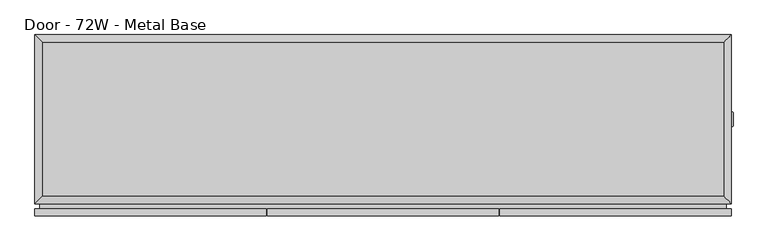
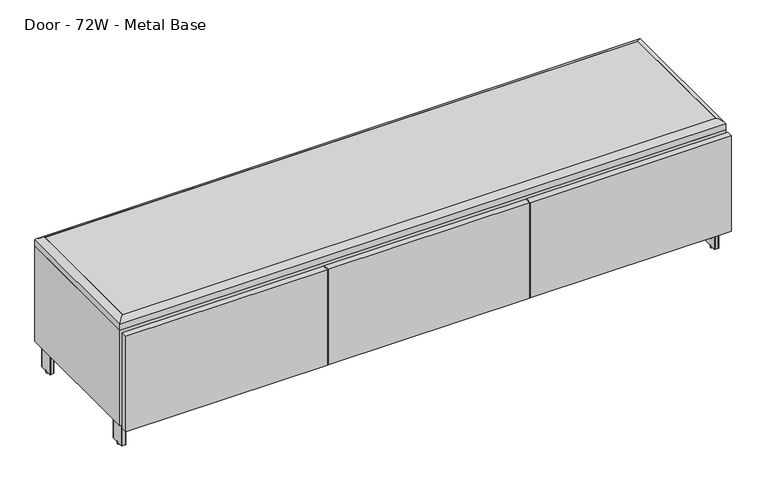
"""IFC4 building model written with IfcOpenShell, lengths in millimetres: furniture geometry, Steelcase Coalesse - Exponents - Seating - Bench : Door - 72W - Metal Base."""

import ifcopenshell
import ifcopenshell.guid

model = None  # the IFC model being written
_history = None  # IfcOwnerHistory: only IFC2X3 demands one
_inside = {}  # id of a spatial element -> (the spatial element, [elements in it])
_under = {}  # id of a project, library or spatial element -> (it, [spatial elements below it])
_declared = {}  # id of a project -> (the project, [libraries it declares])
_typed = {}  # id of a type object -> (the type object, [elements of that type])
_made_of = {}  # id of a material, layer set ... -> (it, [elements and type objects made of it])


def new_model(schema):
    """Start an empty IFC model of exactly this schema.

    Asked for "IFC4X3", IfcOpenShell would pick the latest addendum, in which some entities
    have other attributes; the version numbers below select the first issue.
    IFC2X3 requires an IfcOwnerHistory on every rooted entity: one is made here for all.
    """
    global model, _history
    if schema == "IFC4X3":
        model = ifcopenshell.file(schema_version=(4, 3, 0, 0))
    else:
        model = ifcopenshell.file(schema=schema)
    _inside.clear()
    _under.clear()
    _declared.clear()
    _typed.clear()
    _made_of.clear()
    _history = None
    if model.schema == "IFC2X3":
        org = make("IfcOrganization", Name="unknown")
        user = make(
            "IfcPersonAndOrganization",
            ThePerson=make("IfcPerson", FamilyName="unknown"),
            TheOrganization=org,
        )
        app = make(
            "IfcApplication",
            ApplicationDeveloper=org,
            Version="unknown",
            ApplicationFullName="unknown",
            ApplicationIdentifier="unknown",
        )
        _history = make(
            "IfcOwnerHistory",
            OwningUser=user,
            OwningApplication=app,
            ChangeAction="ADDED",
            CreationDate=0,
        )
    return model


def make(cls, **values):
    """One entity of the class cls with the attributes given. An attribute that is None is left unset."""
    return model.create_entity(
        cls, **{name: value for name, value in values.items() if value is not None}
    )


def rooted(cls, **values):
    """An entity with a GlobalId (a new one), such as an element, a storey or a relation."""
    return make(cls, GlobalId=ifcopenshell.guid.new(), OwnerHistory=_history, **values)


def si_unit(unit_type, name, prefix=None):
    """IfcSIUnit, for example si_unit("LENGTHUNIT", "METRE", prefix="MILLI")."""
    return make("IfcSIUnit", UnitType=unit_type, Prefix=prefix, Name=name)


def assignment(units):
    """IfcUnitAssignment: the units of a project."""
    return None if units is None else make("IfcUnitAssignment", Units=units)


def point(xyz):
    """IfcCartesianPoint."""
    return None if xyz is None else make("IfcCartesianPoint", Coordinates=xyz)


def direction(xyz):
    """IfcDirection."""
    return None if xyz is None else make("IfcDirection", DirectionRatios=xyz)


def frame(location, z_axis=None, x_axis=None):
    """IfcAxis2Placement3D, a coordinate frame: its origin and axes. An axis left out is left unset."""
    return make(
        "IfcAxis2Placement3D",
        Location=point(location),
        Axis=direction(z_axis),
        RefDirection=direction(x_axis),
    )


def frame_2d(location, x_axis=None):
    """IfcAxis2Placement2D, a coordinate frame in the plane: its origin and x axis."""
    return make(
        "IfcAxis2Placement2D", Location=point(location), RefDirection=direction(x_axis)
    )


def origin():
    """The frame at (0, 0, 0) with its axes left unset."""
    return frame((0.0, 0.0, 0.0))


def origin_with_axes():
    """The frame at (0, 0, 0) with the z axis (0, 0, 1) and the x axis (1, 0, 0) written out."""
    return frame((0.0, 0.0, 0.0), z_axis=(0.0, 0.0, 1.0), x_axis=(1.0, 0.0, 0.0))


def place(relative_to, where):
    """IfcLocalPlacement: puts the frame where relative to a parent placement (None: the world)."""
    return make(
        "IfcLocalPlacement", PlacementRelTo=relative_to, RelativePlacement=where
    )


def context(
    kind, dimensions, precision=None, world=None, true_north=None, identifier=None
):
    """IfcGeometricRepresentationContext, for example the 3D "Model" context."""
    return make(
        "IfcGeometricRepresentationContext",
        ContextIdentifier=identifier,
        ContextType=kind,
        CoordinateSpaceDimension=dimensions,
        Precision=precision,
        WorldCoordinateSystem=world,
        TrueNorth=true_north,
    )


def project(units=None, contexts=None):
    """IfcProject with its units and contexts."""
    return rooted(
        "IfcProject",
        Name="project",
        RepresentationContexts=contexts,
        UnitsInContext=assignment(units),
    )


def spatial(cls, under=None, at=None, **own):
    """A site, building, storey or space (cls), placed at a placement, below another one or the project."""
    s = rooted(cls, ObjectPlacement=at, **own)
    if under is not None:
        _under.setdefault(under.id(), (under, []))[1].append(s)
    return s


def polyline(points):
    """IfcPolyline through the points."""
    return make("IfcPolyline", Points=[point(p) for p in points])


def circle_curve(where, radius):
    """IfcCircle in the frame where."""
    return make("IfcCircle", Position=where, Radius=radius)


def ellipse_curve(where, semi_axis1, semi_axis2):
    """IfcEllipse in the frame where."""
    return make(
        "IfcEllipse", Position=where, SemiAxis1=semi_axis1, SemiAxis2=semi_axis2
    )


def trimmed(basis, trim1, trim2, sense, master):
    """IfcTrimmedCurve: the piece of a basis curve between two trims."""
    return make(
        "IfcTrimmedCurve",
        BasisCurve=basis,
        Trim1=trim1,
        Trim2=trim2,
        SenseAgreement=sense,
        MasterRepresentation=master,
    )


def segment(curve, same_sense, transition):
    """IfcCompositeCurveSegment."""
    return make(
        "IfcCompositeCurveSegment",
        Transition=transition,
        SameSense=same_sense,
        ParentCurve=curve,
    )


def composite_curve(segments, self_intersect=None):
    """IfcCompositeCurve: segments joined end to end."""
    return make("IfcCompositeCurve", Segments=segments, SelfIntersect=self_intersect)


def outline(outer, holes=None, kind="AREA"):
    """IfcArbitraryClosedProfileDef: a profile drawn as a closed curve; with holes, ...WithVoids."""
    if holes is None:
        return make("IfcArbitraryClosedProfileDef", ProfileType=kind, OuterCurve=outer)
    return make(
        "IfcArbitraryProfileDefWithVoids",
        ProfileType=kind,
        OuterCurve=outer,
        InnerCurves=holes,
    )


def extrude(swept, where, along, depth):
    """IfcExtrudedAreaSolid: the profile swept, set in the frame where, extruded along a direction by depth."""
    return make(
        "IfcExtrudedAreaSolid",
        SweptArea=swept,
        Position=where,
        ExtrudedDirection=direction(along),
        Depth=depth,
    )


def faces_of(points, faces, orient=None, outer=None):
    """IfcFace entities. A face is a list of loops; a loop is a list of indices into points, from 0.

    orient and outer hold one flag for each loop. By default every Orientation is true, the
    first loop of a face is its IfcFaceOuterBound and the others are IfcFaceBound.
    """
    made = []
    for i, loops in enumerate(faces):
        bounds = []
        for j, loop in enumerate(loops):
            is_outer = j == 0 if outer is None else outer[i][j]
            bounds.append(
                make(
                    "IfcFaceOuterBound" if is_outer else "IfcFaceBound",
                    Bound=make("IfcPolyLoop", Polygon=[points[k] for k in loop]),
                    Orientation=True if orient is None else orient[i][j],
                )
            )
        made.append(make("IfcFace", Bounds=bounds))
    return made


def faceted_brep(points, faces, orient=None, outer=None, voids=None):
    """IfcFacetedBrep: a solid bounded by flat faces; with voids (closed shells), ...WithVoids."""
    shared = [point(p) for p in points]
    hull = make("IfcClosedShell", CfsFaces=faces_of(shared, faces, orient, outer))
    if voids is None:
        return make("IfcFacetedBrep", Outer=hull)
    return make(
        "IfcFacetedBrepWithVoids",
        Outer=hull,
        Voids=[
            make(cls, CfsFaces=faces_of(shared, fs, o, b)) for cls, fs, o, b in voids
        ],
    )


def shape(context_of_items, identifier, shape_type, items):
    """IfcShapeRepresentation: the items that make up one representation, for example the "Body"."""
    return make(
        "IfcShapeRepresentation",
        ContextOfItems=context_of_items,
        RepresentationIdentifier=identifier,
        RepresentationType=shape_type,
        Items=items,
    )


def source(mapping_origin, context_of_items, identifier, shape_type, items):
    """IfcRepresentationMap: a shape defined once, which mapped items show again and again."""
    return make(
        "IfcRepresentationMap",
        MappingOrigin=mapping_origin,
        MappedRepresentation=shape(context_of_items, identifier, shape_type, items),
    )


def transform(
    local_origin,
    x_axis=None,
    y_axis=None,
    z_axis=None,
    scale=None,
    scale2=None,
    scale3=None,
    uniform=True,
):
    """IfcCartesianTransformationOperator3D, or its non-uniform kind. x_axis, y_axis, z_axis: its Axis1, 2, 3."""
    if uniform:
        return make(
            "IfcCartesianTransformationOperator3D",
            Axis1=direction(x_axis),
            Axis2=direction(y_axis),
            LocalOrigin=point(local_origin),
            Scale=scale,
            Axis3=direction(z_axis),
        )
    return make(
        "IfcCartesianTransformationOperator3DnonUniform",
        Axis1=direction(x_axis),
        Axis2=direction(y_axis),
        LocalOrigin=point(local_origin),
        Scale=scale,
        Axis3=direction(z_axis),
        Scale2=scale2,
        Scale3=scale3,
    )


def mapped(mapping_source, mapping_target):
    """IfcMappedItem: shows the shape of a source again, moved by a transform."""
    return make(
        "IfcMappedItem", MappingSource=mapping_source, MappingTarget=mapping_target
    )


def made_of(thing, what):
    """Note that an element or type object is made of a material, layer set ...; save() writes the relation."""
    if what is not None:
        _made_of.setdefault(what.id(), (what, []))[1].append(thing)
    return thing


def element(
    cls,
    number,
    at=None,
    inside=None,
    cuts=None,
    type_object=None,
    material=None,
    context=None,
    identifier="Body",
    shape_type=None,
    held_by="IfcProductDefinitionShape",
    body=None,
    shapes=None,
    **own,
):
    """One element of the class cls, such as IfcWall. Its Tag is "e" and its number.

    at: its placement. inside: the storey or other place that contains it. cuts: it is an
    opening in that element (IfcRelVoidsElement). A single representation is given by context,
    identifier, shape_type and body (its items); several are given by shapes. held_by: the class
    of the entity that holds the representations. save() writes the other relations.
    """
    e = rooted(cls, Tag="e%d" % number, ObjectPlacement=at, **own)
    if body is not None:
        shapes = [shape(context, identifier, shape_type, body)]
    if shapes is not None:
        e.Representation = make(held_by, Representations=shapes)
    if inside is not None:
        _inside.setdefault(inside.id(), (inside, []))[1].append(e)
    if cuts is not None:
        rooted(
            "IfcRelVoidsElement", RelatingBuildingElement=cuts, RelatedOpeningElement=e
        )
    if type_object is not None:
        _typed.setdefault(type_object.id(), (type_object, []))[1].append(e)
    return made_of(e, material)


def aggregate(whole, parts):
    """IfcRelAggregates: a whole, such as a stair, and the parts it consists of."""
    return rooted("IfcRelAggregates", RelatingObject=whole, RelatedObjects=parts)


def save(model, path):
    """Write the relations noted so far, then the file.

    IfcRelAggregates (storeys below a building ...), IfcRelContainedInSpatialStructure (elements
    in a storey), IfcRelDefinesByType, IfcRelAssociatesMaterial and IfcRelDeclares: one each for
    every whole, place, type object, material and project.
    """
    for whole, parts in _under.values():
        aggregate(whole, parts)
    for where, things in _inside.values():
        rooted(
            "IfcRelContainedInSpatialStructure",
            RelatedElements=things,
            RelatingStructure=where,
        )
    for kind, things in _typed.values():
        rooted("IfcRelDefinesByType", RelatedObjects=things, RelatingType=kind)
    for what, things in _made_of.values():
        rooted("IfcRelAssociatesMaterial", RelatedObjects=things, RelatingMaterial=what)
    for by, libraries in _declared.values():
        rooted("IfcRelDeclares", RelatingContext=by, RelatedDefinitions=libraries)
    model.write(path)


def plane_surface(at):
    """IfcPlane: the flat surface through the origin of the frame at, square to its z axis."""
    return make("IfcPlane", Position=at)


def cylinder_surface(at, radius):
    """IfcCylindricalSurface: all points at the distance radius from the z axis of the frame at."""
    return make("IfcCylindricalSurface", Position=at, Radius=radius)


def advanced_brep(points, edges, surfaces, faces):
    """IfcAdvancedBrep: a solid bounded by faces that lie on surfaces and meet in shared edges.

    An edge is (start, end): straight between two places in points (the first is 0);
    or (start, end, curve); or (start, end, curve, False) where it runs against its curve.
    A face is (place in surfaces, loops), or (place, loops, False) where it looks against
    its surface's normal. A loop lists edges by number (the first is 1), with a minus sign
    where the edge is run from its end to its start. The first loop is the outer one.
    """
    corners = [point(p) for p in points]
    vertices = [make("IfcVertexPoint", VertexGeometry=c) for c in corners]
    made = []
    for start, end, *more in edges:
        made.append(
            make(
                "IfcEdgeCurve",
                EdgeStart=vertices[start],
                EdgeEnd=vertices[end],
                EdgeGeometry=more[0] if more else make("IfcPolyline", Points=[corners[start], corners[end]]),
                SameSense=more[1] if len(more) > 1 else True,
            )
        )
    hull = []
    for where, loops, *sense in faces:
        bounds = []
        for j, loop in enumerate(loops):
            ring = [make("IfcOrientedEdge", EdgeElement=made[abs(k) - 1], Orientation=k > 0) for k in loop]
            bounds.append(
                make(
                    "IfcFaceOuterBound" if j == 0 else "IfcFaceBound",
                    Bound=make("IfcEdgeLoop", EdgeList=ring),
                    Orientation=True,
                )
            )
        hull.append(make("IfcAdvancedFace", Bounds=bounds, FaceSurface=surfaces[where], SameSense=sense[0] if sense else True))
    return make("IfcAdvancedBrep", Outer=make("IfcClosedShell", CfsFaces=hull))


def door_72w_metal_base_94e5ba46(model_context):
    return source(origin(), model_context, "Body", "SolidModel", [
        extrude(outline(composite_curve([segment(trimmed(circle_curve(frame_2d((1831.848, 252.476)), 1.524), [point((1831.848, 254.0))], [point((1833.372, 252.476))], False, "CARTESIAN"), True, "CONTINUOUS"), segment(polyline([(1833.372, 252.476), (1833.372, 217.424)]), True, "CONTINUOUS"), segment(trimmed(circle_curve(frame_2d((1831.848, 217.424)), 1.524), [point((1833.372, 217.424))], [point((1831.848, 215.9))], False, "CARTESIAN"), True, "CONTINUOUS"), segment(polyline([(1831.848, 215.9), (1815.958829, 215.9)]), True, "CONTINUOUS"), segment(trimmed(circle_curve(frame_2d((1815.958829, 217.536829)), 1.636829), [point((1815.958829, 215.9))], [point((1814.322, 217.536829))], False, "CARTESIAN"), True, "CONTINUOUS"), segment(polyline([(1814.322, 217.536829), (1814.322, 252.476)]), True, "CONTINUOUS"), segment(trimmed(circle_curve(frame_2d((1815.846, 252.476)), 1.524), [point((1814.322, 252.476))], [point((1815.846, 254.0))], False, "CARTESIAN"), True, "CONTINUOUS"), segment(polyline([(1815.846, 254.0), (1831.848, 254.0)]), True, "CONTINUOUS")], self_intersect=False)), frame((0.0, 0.0, 6.3754), z_axis=(0.0, 0.0, 1.0), x_axis=(1.0, 0.0, 0.0)), (0.0, 0.0, 1.0), 73.152),
        extrude(outline(polyline([(1828.0126, 0.0), (1828.0126, -19.05), (1220.6224, -19.05), (1220.6224, 0.0), (1828.0126, 0.0)])), frame((0.0, 0.0, 82.55), z_axis=(0.0, 0.0, 1.0), x_axis=(1.0, 0.0, 0.0)), (0.0, 0.0, 1.0), 304.8),
        extrude(outline(polyline([(1217.8284, 0.0), (1217.8284, -19.05), (610.4382, -19.05), (610.4382, 0.0), (1217.8284, 0.0)])), frame((0.0, 0.0, 82.55), z_axis=(0.0, 0.0, 1.0), x_axis=(1.0, 0.0, 0.0)), (0.0, 0.0, 1.0), 304.8),
        extrude(outline(polyline([(607.3902, 0.0), (607.3902, -19.05), (0.0, -19.05), (0.0, 0.0), (607.3902, 0.0)])), frame((0.0, 0.0, 82.55), z_axis=(0.0, 0.0, 1.0), x_axis=(1.0, 0.0, 0.0)), (0.0, 0.0, 1.0), 304.8),
        faceted_brep([(1803.019, 428.1633485, 82.55), (1223.772, 251.7961151, 82.55), (1223.772, 218.1038849, 82.55), (1803.019, 37.8529725, 82.55), (1803.019, 57.8040065, 82.55), (1233.7498412, 234.95, 82.55), (1803.019, 408.2123144, 82.55), (1803.019, 428.1633485, 34.925), (1803.019, 408.2123144, 34.925), (1233.8031998, 234.9333958, 34.925), (1803.019, 57.8040065, 34.925), (1803.019, 37.8529725, 34.925), (1223.772, 218.1038849, 34.925), (1223.772, 251.7961151, 34.925)], [[[0, 1, 2, 3, 4, 5, 6]], [[7, 8, 9, 10, 11, 12, 13]], [[1, 0, 7, 13]], [[2, 1, 13, 12]], [[3, 2, 12, 11]], [[4, 3, 11, 10]], [[5, 4, 10, 9]], [[6, 5, 9, 8]], [[0, 6, 8, 7]]]),
        extrude(outline(polyline([(1209.548, 12.7), (623.824, 12.7), (623.824, 438.15), (1209.548, 438.15), (1209.548, 12.7)])), frame((0.0, 0.0, 215.9), z_axis=(0.0, 0.0, 1.0), x_axis=(1.0, 0.0, 0.0)), (0.0, 0.0, 1.0), 19.05),
        advanced_brep(
        [(0.0, 12.7, 406.6283237), (0.0, 12.7, 387.35), (1828.8, 12.7, 387.35), (1828.8, 12.7, 406.6283237), (1828.8, 457.2, 406.6283237), (1828.8, 457.2, 387.35), (0.0, 457.2, 387.35), (0.0, 457.2, 406.6283237), (1809.75, 31.75, 406.6283237), (1809.75, 438.15, 406.6283237), (19.05, 438.15, 406.6283237), (19.05, 31.75, 406.6283237), (1809.75, 438.15, 419.0696271), (1809.75, 31.75, 419.0696271), (19.05, 31.75, 419.0696271), (19.05, 438.15, 419.0696271)],
        [
            (0, 1),
            (1, 2),
            (2, 3),
            (3, 0),
            (4, 5),
            (5, 6),
            (6, 7),
            (7, 4),
            (8, 9),
            (9, 10),
            (10, 11),
            (11, 8),
            (0, 7),
            (6, 1),
            (5, 2),
            (4, 3),
            (12, 9),
            (8, 13),
            (13, 12),
            (13, 3, ellipse_curve(frame((1808.1973666, 33.3026334, 395.8870134), z_axis=(0.7071067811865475, 0.7071067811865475, 0.0), x_axis=(-0.7071067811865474, 0.7071067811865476, 0.0)), 32.8586138, 23.2345486)),
            (4, 12, ellipse_curve(frame((1808.1973666, 436.5973666, 395.8870134), z_axis=(0.7071067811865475, -0.7071067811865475, 0.0), x_axis=(0.7071067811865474, 0.7071067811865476, 0.0)), 32.8586138, 23.2345486)),
            (11, 14),
            (14, 13),
            (14, 0, ellipse_curve(frame((20.6026334, 33.3026334, 395.8870134), z_axis=(0.7071067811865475, -0.7071067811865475, 0.0), x_axis=(0.7071067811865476, 0.7071067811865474, 0.0)), 32.8586138, 23.2345486)),
            (10, 15),
            (15, 14),
            (15, 7, ellipse_curve(frame((20.6026334, 436.5973666, 395.8870134), z_axis=(-0.7071067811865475, -0.7071067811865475, 0.0), x_axis=(0.7071067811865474, -0.7071067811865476, 0.0)), 32.8586138, 23.2345486)),
            (12, 15),
        ],
        [
            plane_surface(frame((0.0, 12.7, 406.6283237), z_axis=(0.0, -1.0, 0.0), x_axis=(-1.0, 0.0, 0.0))),
            plane_surface(frame((0.0, 457.2, 406.6283237), z_axis=(0.0, 1.0, 0.0), x_axis=(1.0, 0.0, 0.0))),
            plane_surface(frame((1828.8, 12.7, 406.6283237), z_axis=(0.0, 0.0, 1.0), x_axis=(0.0, 1.0, 0.0))),
            plane_surface(frame((0.0, 12.7, 406.6283237), z_axis=(-1.0, 0.0, 1.9588398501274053e-12), x_axis=(0.0, 1.0, 0.0))),
            plane_surface(frame((0.0, 12.7, 387.35), z_axis=(0.0, 0.0, -1.0), x_axis=(0.0, 1.0, 0.0))),
            plane_surface(frame((1828.8, 12.7, 387.35), z_axis=(1.0, 0.0, 0.0), x_axis=(0.0, 1.0, 0.0))),
            plane_surface(frame((1809.75, 438.15, 406.6284102), z_axis=(-1.0, 0.0, 0.0), x_axis=(0.0, -1.0, 0.0))),
            cylinder_surface(frame((1808.1973666, 457.2, 395.8870134), z_axis=(0.0, 1.0, 0.0), x_axis=(1.0, 0.0, 0.0)), 23.2345486),
            plane_surface(frame((1809.75, 31.75, 406.6284102), z_axis=(0.0, 1.0, 0.0), x_axis=(-1.0, 0.0, 0.0))),
            cylinder_surface(frame((1828.8, 33.3026334, 395.8870134), z_axis=(1.0, 0.0, 0.0), x_axis=(0.0, -1.0, 0.0)), 23.2345486),
            plane_surface(frame((19.05, 31.75, 406.6284102), z_axis=(1.0, 0.0, 0.0), x_axis=(0.0, 1.0, 0.0))),
            cylinder_surface(frame((20.6026334, 12.7, 395.8870134), z_axis=(0.0, -1.0, 0.0), x_axis=(-1.0, 0.0, 0.0)), 23.2345486),
            plane_surface(frame((19.05, 438.15, 406.6284102), z_axis=(0.0, -1.0, 0.0), x_axis=(1.0, 0.0, 0.0))),
            cylinder_surface(frame((0.0, 436.5973666, 395.8870134), z_axis=(-1.0, 0.0, 0.0), x_axis=(0.0, 1.0, 0.0)), 23.2345486),
        ],
        [
            (0, [[1, 2, 3, 4]]),
            (1, [[5, 6, 7, 8]]),
            (2, [[9, 10, 11, 12]]),
            (3, [[-1, 13, -7, 14]]),
            (4, [[-2, -14, -6, 15]]),
            (5, [[-3, -15, -5, 16]]),
            (6, [[17, -9, 18, 19]]),
            (7, [[-19, 20, -16, 21]]),
            (8, [[-18, -12, 22, 23]]),
            (9, [[-20, -23, 24, -4]]),
            (10, [[-22, -11, 25, 26]]),
            (11, [[-24, -26, 27, -13]]),
            (12, [[-17, 28, -25, -10]]),
            (13, [[-21, -8, -27, -28]]),
        ],
    ),
        extrude(outline(composite_curve([segment(trimmed(circle_curve(frame_2d((1219.3711957, 234.844279)), 6.35), [point((1213.0211957, 234.844279))], [point((1225.7211957, 234.844279))], False, "CARTESIAN"), True, "CONTINUOUS"), segment(trimmed(circle_curve(frame_2d((1219.3711957, 234.844279)), 6.35), [point((1225.7211957, 234.844279))], [point((1213.0211957, 234.844279))], False, "CARTESIAN"), True, "CONTINUOUS")], self_intersect=False)), origin_with_axes(), (0.0, 0.0, 1.0), 6.3754),
        extrude(outline(composite_curve([segment(trimmed(circle_curve(frame_2d((1227.074, 252.476)), 1.524), [point((1227.074, 254.0))], [point((1228.598, 252.476))], False, "CARTESIAN"), True, "CONTINUOUS"), segment(polyline([(1228.598, 252.476), (1228.598, 217.424)]), True, "CONTINUOUS"), segment(trimmed(circle_curve(frame_2d((1227.074, 217.424)), 1.524), [point((1228.598, 217.424))], [point((1227.074, 215.9))], False, "CARTESIAN"), True, "CONTINUOUS"), segment(polyline([(1227.074, 215.9), (1211.184829, 215.9)]), True, "CONTINUOUS"), segment(trimmed(circle_curve(frame_2d((1211.184829, 217.536829)), 1.636829), [point((1211.184829, 215.9))], [point((1209.548, 217.536829))], False, "CARTESIAN"), True, "CONTINUOUS"), segment(polyline([(1209.548, 217.536829), (1209.548, 252.476)]), True, "CONTINUOUS"), segment(trimmed(circle_curve(frame_2d((1211.072, 252.476)), 1.524), [point((1209.548, 252.476))], [point((1211.072, 254.0))], False, "CARTESIAN"), True, "CONTINUOUS"), segment(polyline([(1211.072, 254.0), (1227.074, 254.0)]), True, "CONTINUOUS")], self_intersect=False)), frame((0.0, 0.0, 6.3754), z_axis=(0.0, 0.0, 1.0), x_axis=(1.0, 0.0, 0.0)), (0.0, 0.0, 1.0), 73.152),
        extrude(outline(polyline([(1265.2060257, 285.75), (1265.2060257, 184.15), (1163.6060257, 184.15), (1163.6060257, 285.75), (1265.2060257, 285.75)])), frame((0.0, 0.0, 79.5274), z_axis=(0.0, 0.0, 1.0), x_axis=(1.0, 0.0, 0.0)), (0.0, 0.0, 1.0), 3.048),
        extrude(outline(composite_curve([segment(trimmed(circle_curve(frame_2d((614.4757069, 234.844279)), 6.35), [point((608.1257069, 234.844279))], [point((620.8257069, 234.844279))], False, "CARTESIAN"), True, "CONTINUOUS"), segment(trimmed(circle_curve(frame_2d((614.4757069, 234.844279)), 6.35), [point((620.8257069, 234.844279))], [point((608.1257069, 234.844279))], False, "CARTESIAN"), True, "CONTINUOUS")], self_intersect=False)), origin_with_axes(), (0.0, 0.0, 1.0), 6.3754),
        extrude(outline(composite_curve([segment(trimmed(circle_curve(frame_2d((622.3, 252.476)), 1.524), [point((622.3, 254.0))], [point((623.824, 252.476))], False, "CARTESIAN"), True, "CONTINUOUS"), segment(polyline([(623.824, 252.476), (623.824, 217.424)]), True, "CONTINUOUS"), segment(trimmed(circle_curve(frame_2d((622.3, 217.424)), 1.524), [point((623.824, 217.424))], [point((622.3, 215.9))], False, "CARTESIAN"), True, "CONTINUOUS"), segment(polyline([(622.3, 215.9), (606.410829, 215.9)]), True, "CONTINUOUS"), segment(trimmed(circle_curve(frame_2d((606.410829, 217.536829)), 1.636829), [point((606.410829, 215.9))], [point((604.774, 217.536829))], False, "CARTESIAN"), True, "CONTINUOUS"), segment(polyline([(604.774, 217.536829), (604.774, 252.476)]), True, "CONTINUOUS"), segment(trimmed(circle_curve(frame_2d((606.298, 252.476)), 1.524), [point((604.774, 252.476))], [point((606.298, 254.0))], False, "CARTESIAN"), True, "CONTINUOUS"), segment(polyline([(606.298, 254.0), (622.3, 254.0)]), True, "CONTINUOUS")], self_intersect=False)), frame((0.0, 0.0, 6.3754), z_axis=(0.0, 0.0, 1.0), x_axis=(1.0, 0.0, 0.0)), (0.0, 0.0, 1.0), 73.152),
        extrude(outline(polyline([(1228.598, 438.15), (1228.598, 0.0), (1209.548, 0.0), (1209.548, 438.15), (1228.598, 438.15)])), frame((0.0, 0.0, 101.6), z_axis=(0.0, 0.0, 1.0), x_axis=(1.0, 0.0, 0.0)), (0.0, 0.0, 1.0), 266.7),
        faceted_brep([(1828.8, 12.7, 387.35), (0.0, 12.7, 387.35), (0.0, 12.7, 82.55), (1828.8, 12.7, 82.55), (19.05, 12.7, 368.0968), (604.774, 12.7, 368.0968), (604.774, 12.7, 101.8032), (19.05, 12.7, 101.8032), (623.824, 12.7, 368.0968), (1809.75, 12.7, 368.0968), (1809.75, 12.7, 101.8032), (623.824, 12.7, 101.8032), (1828.8, 457.2, 387.35), (1828.8, 457.2, 82.55), (0.0, 457.2, 82.55), (0.0, 457.2, 387.35), (604.774, 438.15, 368.0968), (19.05, 438.15, 368.0968), (19.05, 438.15, 101.8032), (604.774, 438.15, 101.8032), (1809.75, 438.15, 368.0968), (623.824, 438.15, 368.0968), (623.824, 438.15, 101.8032), (1809.75, 438.15, 101.8032)], [[[0, 1, 2, 3], [4, 5, 6, 7], [8, 9, 10, 11]], [[12, 13, 14, 15]], [[1, 0, 12, 15]], [[2, 1, 15, 14]], [[3, 2, 14, 13]], [[0, 3, 13, 12]], [[16, 17, 18, 19]], [[20, 21, 22, 23]], [[17, 16, 5, 4]], [[18, 17, 4, 7]], [[19, 18, 7, 6]], [[16, 19, 6, 5]], [[21, 20, 9, 8]], [[22, 21, 8, 11]], [[23, 22, 11, 10]], [[20, 23, 10, 9]]]),
        extrude(outline(polyline([(660.4, 285.75), (660.4, 184.15), (558.8, 184.15), (558.8, 285.75), (660.4, 285.75)])), frame((0.0, 0.0, 79.5274), z_axis=(0.0, 0.0, 1.0), x_axis=(1.0, 0.0, 0.0)), (0.0, 0.0, 1.0), 3.048),
        extrude(outline(composite_curve([segment(trimmed(circle_curve(frame_2d((19.163053, 47.5933344)), 6.35), [point((25.513053, 47.5933344))], [point((12.813053, 47.5933344))], False, "CARTESIAN"), True, "CONTINUOUS"), segment(trimmed(circle_curve(frame_2d((19.163053, 47.5933344)), 6.35), [point((12.813053, 47.5933344))], [point((25.513053, 47.5933344))], False, "CARTESIAN"), True, "CONTINUOUS")], self_intersect=False)), origin_with_axes(), (0.0, 0.0, 1.0), 6.3754),
        extrude(outline(composite_curve([segment(trimmed(circle_curve(frame_2d((14.224, 26.924)), 1.524), [point((14.224, 25.4))], [point((12.7, 26.924))], False, "CARTESIAN"), True, "CONTINUOUS"), segment(polyline([(12.7, 26.924), (12.7, 68.326)]), True, "CONTINUOUS"), segment(trimmed(circle_curve(frame_2d((14.224, 68.326)), 1.524), [point((12.7, 68.326))], [point((14.224, 69.85))], False, "CARTESIAN"), True, "CONTINUOUS"), segment(polyline([(14.224, 69.85), (23.661571, 69.85)]), True, "CONTINUOUS"), segment(trimmed(circle_curve(frame_2d((23.661571, 68.213171)), 1.636829), [point((23.661571, 69.85))], [point((25.2984, 68.213171))], False, "CARTESIAN"), True, "CONTINUOUS"), segment(polyline([(25.2984, 68.213171), (25.2984, 26.924)]), True, "CONTINUOUS"), segment(trimmed(circle_curve(frame_2d((23.7744, 26.924)), 1.524), [point((25.2984, 26.924))], [point((23.7744, 25.4))], False, "CARTESIAN"), True, "CONTINUOUS"), segment(polyline([(23.7744, 25.4), (14.224, 25.4)]), True, "CONTINUOUS")], self_intersect=False)), frame((0.0, 0.0, 6.3754), z_axis=(0.0, 0.0, 1.0), x_axis=(1.0, 0.0, 0.0)), (0.0, 0.0, 1.0), 73.152),
        extrude(outline(polyline([(6.35, 19.05), (6.35, 120.65), (107.95, 120.65), (107.95, 19.05), (6.35, 19.05)])), frame((0.0, 0.0, 79.5274), z_axis=(0.0, 0.0, 1.0), x_axis=(1.0, 0.0, 0.0)), (0.0, 0.0, 1.0), 3.048),
        extrude(outline(composite_curve([segment(trimmed(circle_curve(frame_2d((19.163053, 422.3066656)), 6.35), [point((25.513053, 422.3066656))], [point((12.813053, 422.3066656))], False, "CARTESIAN"), True, "CONTINUOUS"), segment(trimmed(circle_curve(frame_2d((19.163053, 422.3066656)), 6.35), [point((12.813053, 422.3066656))], [point((25.513053, 422.3066656))], False, "CARTESIAN"), True, "CONTINUOUS")], self_intersect=False)), origin_with_axes(), (0.0, 0.0, 1.0), 6.3754),
        extrude(outline(composite_curve([segment(polyline([(14.224, 444.5), (23.7744, 444.5)]), True, "CONTINUOUS"), segment(trimmed(circle_curve(frame_2d((23.7744, 442.976)), 1.524), [point((23.7744, 444.5))], [point((25.2984, 442.976))], False, "CARTESIAN"), True, "CONTINUOUS"), segment(polyline([(25.2984, 442.976), (25.2984, 401.686829)]), True, "CONTINUOUS"), segment(trimmed(circle_curve(frame_2d((23.661571, 401.686829)), 1.636829), [point((25.2984, 401.686829))], [point((23.661571, 400.05))], False, "CARTESIAN"), True, "CONTINUOUS"), segment(polyline([(23.661571, 400.05), (14.224, 400.05)]), True, "CONTINUOUS"), segment(trimmed(circle_curve(frame_2d((14.224, 401.574)), 1.524), [point((14.224, 400.05))], [point((12.7, 401.574))], False, "CARTESIAN"), True, "CONTINUOUS"), segment(polyline([(12.7, 401.574), (12.7, 442.976)]), True, "CONTINUOUS"), segment(trimmed(circle_curve(frame_2d((14.224, 442.976)), 1.524), [point((12.7, 442.976))], [point((14.224, 444.5))], False, "CARTESIAN"), True, "CONTINUOUS")], self_intersect=False)), frame((0.0, 0.0, 6.3754), z_axis=(0.0, 0.0, 1.0), x_axis=(1.0, 0.0, 0.0)), (0.0, 0.0, 1.0), 73.152),
        extrude(outline(polyline([(6.35, 450.85), (107.95, 450.85), (107.95, 349.25), (6.35, 349.25), (6.35, 450.85)])), frame((0.0, 0.0, 79.5274), z_axis=(0.0, 0.0, 1.0), x_axis=(1.0, 0.0, 0.0)), (0.0, 0.0, 1.0), 3.048),
        extrude(outline(composite_curve([segment(trimmed(circle_curve(frame_2d((1809.4706, 47.5933344)), 6.35), [point((1803.1206, 47.5933344))], [point((1815.8206, 47.5933344))], False, "CARTESIAN"), True, "CONTINUOUS"), segment(trimmed(circle_curve(frame_2d((1809.4706, 47.5933344)), 6.35), [point((1815.8206, 47.5933344))], [point((1803.1206, 47.5933344))], False, "CARTESIAN"), True, "CONTINUOUS")], self_intersect=False)), origin_with_axes(), (0.0, 0.0, 1.0), 6.3754),
        extrude(outline(composite_curve([segment(polyline([(1814.2966, 25.4), (1804.543, 25.4)]), True, "CONTINUOUS"), segment(trimmed(circle_curve(frame_2d((1804.543, 26.924)), 1.524), [point((1804.543, 25.4))], [point((1803.019, 26.924))], False, "CARTESIAN"), True, "CONTINUOUS"), segment(polyline([(1803.019, 26.924), (1803.019, 68.213171)]), True, "CONTINUOUS"), segment(trimmed(circle_curve(frame_2d((1804.655829, 68.213171)), 1.636829), [point((1803.019, 68.213171))], [point((1804.655829, 69.85))], False, "CARTESIAN"), True, "CONTINUOUS"), segment(polyline([(1804.655829, 69.85), (1814.2966, 69.85)]), True, "CONTINUOUS"), segment(trimmed(circle_curve(frame_2d((1814.2966, 68.326)), 1.524), [point((1814.2966, 69.85))], [point((1815.8206, 68.326))], False, "CARTESIAN"), True, "CONTINUOUS"), segment(polyline([(1815.8206, 68.326), (1815.8206, 26.924)]), True, "CONTINUOUS"), segment(trimmed(circle_curve(frame_2d((1814.2966, 26.924)), 1.524), [point((1815.8206, 26.924))], [point((1814.2966, 25.4))], False, "CARTESIAN"), True, "CONTINUOUS")], self_intersect=False)), frame((0.0, 0.0, 6.3754), z_axis=(0.0, 0.0, 1.0), x_axis=(1.0, 0.0, 0.0)), (0.0, 0.0, 1.0), 73.152),
        extrude(outline(polyline([(1822.41225, 19.05), (1720.85, 19.05), (1720.85, 120.65), (1822.41225, 120.65), (1822.41225, 19.05)])), frame((0.0, 0.0, 79.5274), z_axis=(0.0, 0.0, 1.0), x_axis=(1.0, 0.0, 0.0)), (0.0, 0.0, 1.0), 3.048),
        extrude(outline(polyline([(25.2984, 432.1805995), (604.774, 251.858551), (604.774, 218.041449), (25.2984, 37.7194005), (25.2984, 57.6704345), (594.9968002, 234.95), (25.2984, 412.2295655), (25.2984, 432.1805995)])), frame((0.0, 0.0, 34.925), z_axis=(0.0, 0.0, 1.0), x_axis=(1.0, 0.0, 0.0)), (0.0, 0.0, 1.0), 47.625),
        extrude(outline(composite_curve([segment(trimmed(circle_curve(frame_2d((1809.4706, 422.3066656)), 6.35), [point((1803.1206, 422.3066656))], [point((1815.8206, 422.3066656))], False, "CARTESIAN"), True, "CONTINUOUS"), segment(trimmed(circle_curve(frame_2d((1809.4706, 422.3066656)), 6.35), [point((1815.8206, 422.3066656))], [point((1803.1206, 422.3066656))], False, "CARTESIAN"), True, "CONTINUOUS")], self_intersect=False)), origin_with_axes(), (0.0, 0.0, 1.0), 6.3754),
        extrude(outline(composite_curve([segment(trimmed(circle_curve(frame_2d((1814.2966, 442.976)), 1.524), [point((1814.2966, 444.5))], [point((1815.8206, 442.976))], False, "CARTESIAN"), True, "CONTINUOUS"), segment(polyline([(1815.8206, 442.976), (1815.8206, 401.574)]), True, "CONTINUOUS"), segment(trimmed(circle_curve(frame_2d((1814.2966, 401.574)), 1.524), [point((1815.8206, 401.574))], [point((1814.2966, 400.05))], False, "CARTESIAN"), True, "CONTINUOUS"), segment(polyline([(1814.2966, 400.05), (1804.655829, 400.05)]), True, "CONTINUOUS"), segment(trimmed(circle_curve(frame_2d((1804.655829, 401.686829)), 1.636829), [point((1804.655829, 400.05))], [point((1803.019, 401.686829))], False, "CARTESIAN"), True, "CONTINUOUS"), segment(polyline([(1803.019, 401.686829), (1803.019, 442.976)]), True, "CONTINUOUS"), segment(trimmed(circle_curve(frame_2d((1804.543, 442.976)), 1.524), [point((1803.019, 442.976))], [point((1804.543, 444.5))], False, "CARTESIAN"), True, "CONTINUOUS"), segment(polyline([(1804.543, 444.5), (1814.2966, 444.5)]), True, "CONTINUOUS")], self_intersect=False)), frame((0.0, 0.0, 6.3754), z_axis=(0.0, 0.0, 1.0), x_axis=(1.0, 0.0, 0.0)), (0.0, 0.0, 1.0), 73.152),
        extrude(outline(polyline([(1822.41225, 450.85), (1822.41225, 349.25), (1720.85, 349.25), (1720.85, 450.85), (1822.41225, 450.85)])), frame((0.0, 0.0, 79.5274), z_axis=(0.0, 0.0, 1.0), x_axis=(1.0, 0.0, 0.0)), (0.0, 0.0, 1.0), 3.048),
        extrude(outline(polyline([(1809.75, 31.75), (19.05, 31.75), (19.05, 438.15), (1809.75, 438.15), (1809.75, 31.75)])), frame((0.0, 0.0, 406.6283237), z_axis=(0.0, 0.0, 1.0), x_axis=(1.0, 0.0, 0.0)), (0.0, 0.0, 1.0), 12.4413034),
        extrude(outline(polyline([(374.4468, 1815.8206), (374.4468, 12.7), (95.4532, 12.7), (95.4532, 1815.8206), (374.4468, 1815.8206)]), holes=[polyline([(368.0968, 623.824), (368.0968, 1809.75), (101.8032, 1809.75), (101.8032, 623.824), (368.0968, 623.824)]), polyline([(368.0968, 604.774), (101.8032, 604.774), (101.8032, 19.05), (368.0968, 19.05), (368.0968, 604.774)])]), frame((0.0, 0.0, 0.0), z_axis=(0.0, 1.0, 0.0), x_axis=(0.0, 0.0, 1.0)), (0.0, 0.0, 1.0), 12.7),
    ])


if __name__ == "__main__":
    model = new_model("IFC4")
    model_context = context("Model", 3, world=origin())
    ifc_project = project(units=[si_unit("LENGTHUNIT", "METRE", prefix="MILLI")], contexts=[model_context])
    site = spatial("IfcSite", under=ifc_project)
    building = spatial("IfcBuilding", under=site)
    placement = place(None, origin())
    door_72w_metal_base_shape = door_72w_metal_base_94e5ba46(model_context)
    element("IfcFurniture", 1, ObjectType="Steelcase Coalesse - Exponents - Seating - Bench : Door - 72W - Metal Base", at=placement, inside=building, context=model_context, shape_type="MappedRepresentation", body=[
        mapped(door_72w_metal_base_shape, transform((0.0, 0.0, 0.0), x_axis=(1.0, 0.0, 0.0), y_axis=(0.0, 1.0, 0.0), z_axis=(0.0, 0.0, 1.0))),
    ])
    save(model, "model.ifc")
